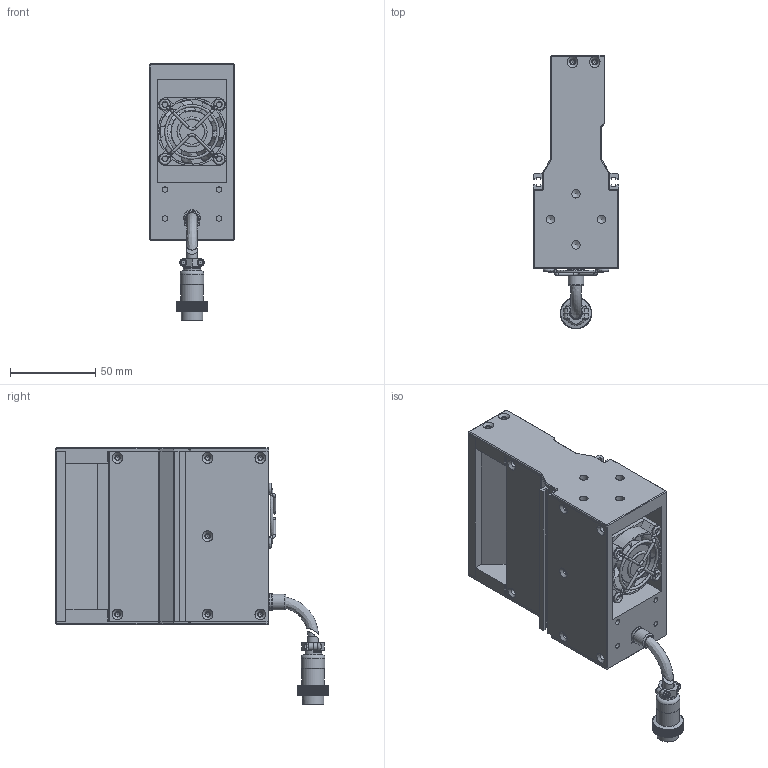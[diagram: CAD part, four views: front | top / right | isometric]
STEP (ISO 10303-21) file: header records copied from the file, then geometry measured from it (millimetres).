
FILE_DESCRIPTION (( 'STEP AP203' ), '1' );
FILE_NAME ('OPT-LSSC104-W-V3.1U尨砩芞.STEP', '2025-02-13T00:48:15', ( '' ), ( '' ), 'SwSTEP 2.0', 'SolidWorks 2016', '' );
FILE_SCHEMA (( 'CONFIG_CONTROL_DESIGN' ));
Products named in the file (1): OPT-LSSC104-W-V3.1U尨砩芞
Bounding box: 50 x 160.62 x 150.83 mm (x, y, z)
Volume: 413781.5 mm3; surface area: 104346.3 mm2
Topology: 9 solids, 17 shells, 3605 faces, 8033 edges, 4506 vertices
Faces by surface type: bspline 2146, cylinder 707, plane 690, cone 59, torus 3
Full cylindrical faces by diameter (mm): 0.95 x6, 1.6 x4, 2 x5, 2.5 x18, 3.2 x8, 3.4 x20, 4 x4, 5 x8, 6.2 x4, 6.4 x3, 7.5 x1, 8.6 x1, 9.3 x1, 9.8 x1, 10 x1, 13.2 x1, 14 x1, 16.1 x1, 24.8 x1, 38 x1
Entity records: 131433 total; most frequent: CARTESIAN_POINT 72500, ORIENTED_EDGE 15518, EDGE_CURVE 7759, B_SPLINE_CURVE_WITH_KNOTS 5713, DIRECTION 5184, VERTEX_POINT 4406, EDGE_LOOP 3859, FACE_OUTER_BOUND 3721
